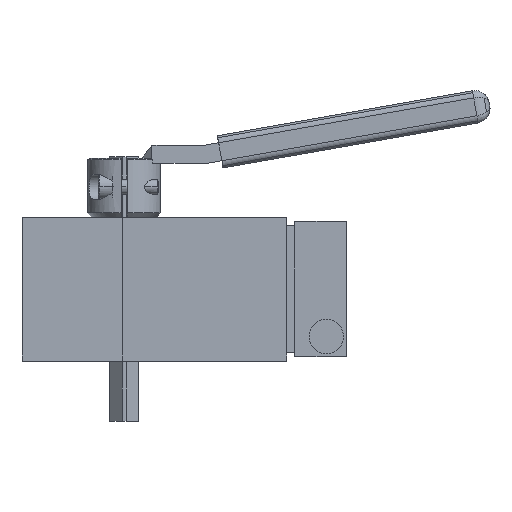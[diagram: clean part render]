
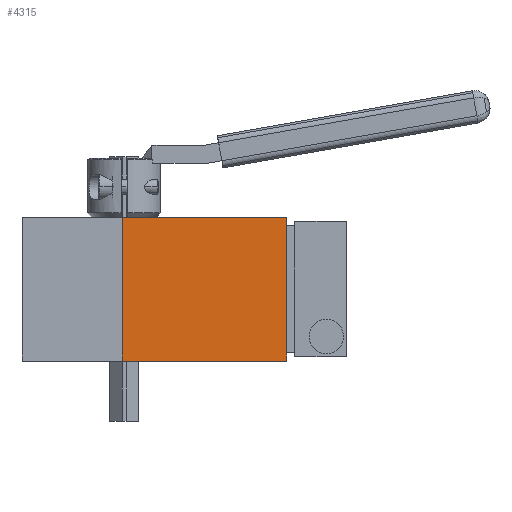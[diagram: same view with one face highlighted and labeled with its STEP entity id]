
A CAD part, front view. The second image highlights one B-rep face of the part: STEP entity #4315.
In plain terms, the highlighted planar face has unit normal (0, -1, 0).
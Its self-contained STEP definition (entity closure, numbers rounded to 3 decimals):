
#4276=CARTESIAN_POINT('',(-55.125,-301.075,21.563));
#4277=DIRECTION('',(0.0,1.0,0.0));
#4278=DIRECTION('',(0.0,0.0,1.0));
#4279=AXIS2_PLACEMENT_3D('',#4276,#4277,#4278);
#4280=PLANE('',#4279);
#4281=CARTESIAN_POINT('',(-83.7,-301.075,46.563));
#4282=VERTEX_POINT('',#4281);
#4283=CARTESIAN_POINT('',(-26.55,-301.075,46.563));
#4284=VERTEX_POINT('',#4283);
#4285=CARTESIAN_POINT('',(-83.7,-301.075,46.563));
#4286=DIRECTION('',(1.0,0.0,0.0));
#4287=VECTOR('',#4286,57.15);
#4288=LINE('',#4285,#4287);
#4289=EDGE_CURVE('',#4282,#4284,#4288,.T.);
#4290=ORIENTED_EDGE('',*,*,#4289,.F.);
#4291=CARTESIAN_POINT('',(-83.7,-301.075,-3.437));
#4292=VERTEX_POINT('',#4291);
#4293=CARTESIAN_POINT('',(-83.7,-301.075,-3.437));
#4294=DIRECTION('',(0.0,0.0,1.0));
#4295=VECTOR('',#4294,50.0);
#4296=LINE('',#4293,#4295);
#4297=EDGE_CURVE('',#4292,#4282,#4296,.T.);
#4298=ORIENTED_EDGE('',*,*,#4297,.F.);
#4299=CARTESIAN_POINT('',(-26.55,-301.075,-3.437));
#4300=VERTEX_POINT('',#4299);
#4301=CARTESIAN_POINT('',(-26.55,-301.075,-3.437));
#4302=DIRECTION('',(-1.0,0.0,0.0));
#4303=VECTOR('',#4302,57.15);
#4304=LINE('',#4301,#4303);
#4305=EDGE_CURVE('',#4300,#4292,#4304,.T.);
#4306=ORIENTED_EDGE('',*,*,#4305,.F.);
#4307=CARTESIAN_POINT('',(-26.55,-301.075,46.563));
#4308=DIRECTION('',(0.0,0.0,-1.0));
#4309=VECTOR('',#4308,50.);
#4310=LINE('',#4307,#4309);
#4311=EDGE_CURVE('',#4284,#4300,#4310,.T.);
#4312=ORIENTED_EDGE('',*,*,#4311,.F.);
#4313=EDGE_LOOP('',(#4290,#4298,#4306,#4312));
#4314=FACE_OUTER_BOUND('',#4313,.T.);
#4315=ADVANCED_FACE('',(#4314),#4280,.F.);
